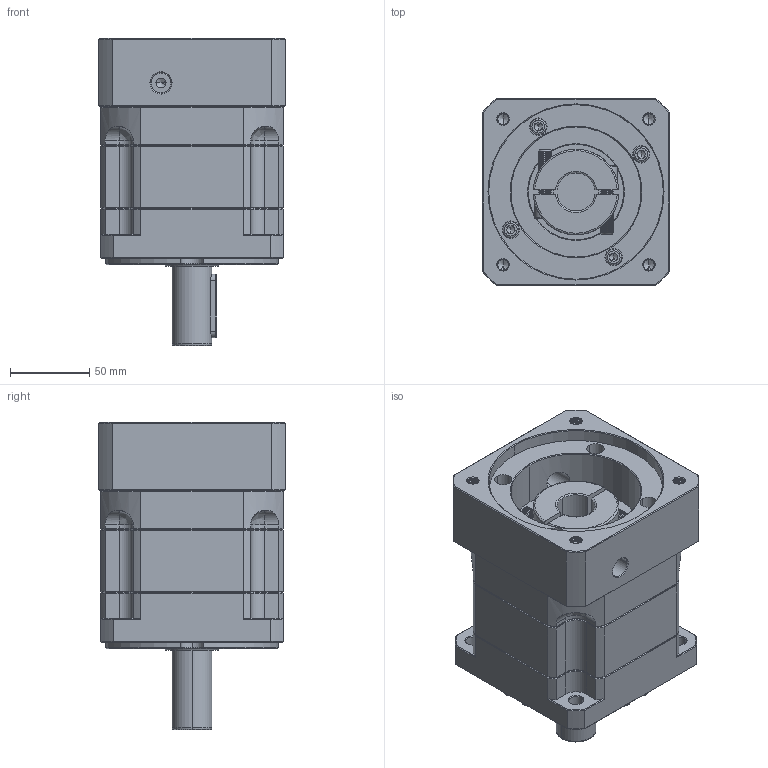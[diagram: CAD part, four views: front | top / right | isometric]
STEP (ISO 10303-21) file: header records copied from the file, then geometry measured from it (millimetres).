
FILE_DESCRIPTION (( 'STEP AP214' ), '1' );
FILE_NAME ('ZB115A-D25-L1-P2-24-110-130-M8.step', '2023-08-26T06:21:55', ( '' ), ( '' ), 'SwSTEP 2.0', 'SolidWorks 2016', '' );
FILE_SCHEMA (( 'AUTOMOTIVE_DESIGN' ));
Length unit declared in the file: millimetre
Products named in the file (1): ZB115A-D25-L1-P2-24-110-130-M8
Bounding box: 118 x 118 x 193.5 mm (x, y, z)
Volume: 1543871.4 mm3; surface area: 169440.2 mm2
Topology: 6 solids, 6 shells, 2395 faces, 6285 edges, 3990 vertices
Faces by surface type: plane 1144, cylinder 441, bspline 423, cone 367, torus 20
Entity records: 129132 total; most frequent: CARTESIAN_POINT 47364, ORIENTED_EDGE 12502, DIRECTION 9901, EDGE_CURVE 6251, LINE 3997, VECTOR 3997, VERTEX_POINT 3990, AXIS2_PLACEMENT_3D 2952
